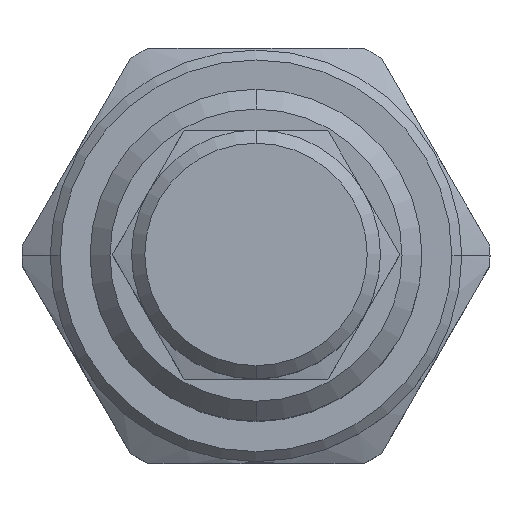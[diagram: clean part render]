
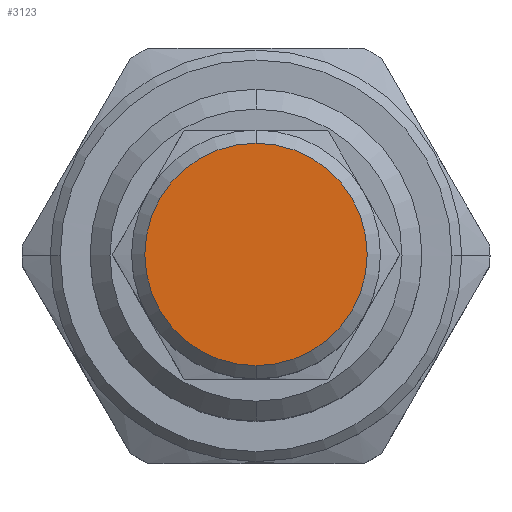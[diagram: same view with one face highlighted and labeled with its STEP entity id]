
A CAD part, top view. The second image highlights one B-rep face of the part: STEP entity #3123.
In plain terms, the highlighted planar face has unit normal (0, 0, 1).
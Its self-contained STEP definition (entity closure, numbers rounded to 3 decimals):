
#1248=CARTESIAN_POINT('',(0.,0.,83.907));
#1249=DIRECTION('',(0.,0.,-1.));
#1250=DIRECTION('',(0.,1.,0.));
#1251=AXIS2_PLACEMENT_3D('',#1248,#1249,#1250);
#1253=CARTESIAN_POINT('',(0.,0.,83.907));
#1254=DIRECTION('',(0.,0.,-1.));
#1255=DIRECTION('',(0.,-1.,0.));
#1256=AXIS2_PLACEMENT_3D('',#1253,#1254,#1255);
#1529=CARTESIAN_POINT('',(0.,-8.509,83.907));
#1530=CARTESIAN_POINT('',(0.,8.509,83.907));
#1531=VERTEX_POINT('',#1529);
#1532=VERTEX_POINT('',#1530);
#3113=CARTESIAN_POINT('',(0.,0.,83.907));
#3114=DIRECTION('',(0.,0.,1.));
#3115=DIRECTION('',(1.,0.,0.));
#3116=AXIS2_PLACEMENT_3D('',#3113,#3114,#3115);
#3117=PLANE('',#3116);
#3119=ORIENTED_EDGE('',*,*,#3118,.T.);
#3120=ORIENTED_EDGE('',*,*,#3103,.T.);
#3121=EDGE_LOOP('',(#3119,#3120));
#3122=FACE_OUTER_BOUND('',#3121,.F.);
#3123=ADVANCED_FACE('',(#3122),#3117,.T.);
#1252=CIRCLE('',#1251,8.509);
#1257=CIRCLE('',#1256,8.509);
#3103=EDGE_CURVE('',#1531,#1532,#1257,.T.);
#3118=EDGE_CURVE('',#1532,#1531,#1252,.T.);
